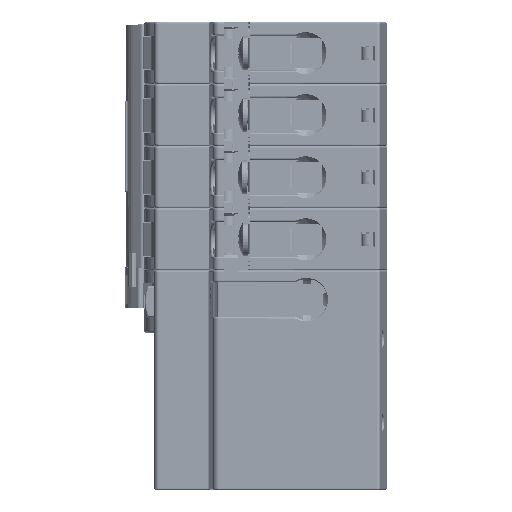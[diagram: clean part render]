
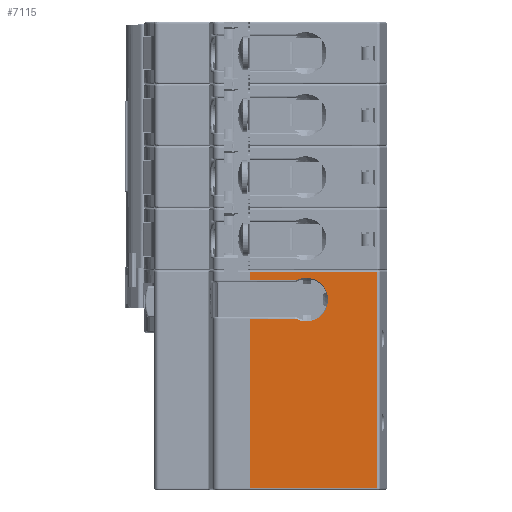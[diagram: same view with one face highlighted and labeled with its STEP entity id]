
A CAD part, left-side view. The second image highlights one B-rep face of the part: STEP entity #7115.
In plain terms, the highlighted planar face has unit normal (-1, 0, 0).
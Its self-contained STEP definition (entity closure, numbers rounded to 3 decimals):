
#687 = CARTESIAN_POINT ( 'NONE',  ( 0., -12.508, -2.9 ) ) ;
#4127 = AXIS2_PLACEMENT_3D ( 'NONE', #91194, #5270, #105582 ) ;
#5112 = ORIENTED_EDGE ( 'NONE', *, *, #91292, .T. ) ;
#5270 = DIRECTION ( 'NONE',  ( 1., 0., 0. ) ) ;
#7115 = ADVANCED_FACE ( 'NONE', ( #105038 ), #134481, .T. ) ;
#12113 = DIRECTION ( 'NONE',  ( 0., 1., 0. ) ) ;
#12212 = VECTOR ( 'NONE', #154970, 1000. ) ;
#15614 = EDGE_CURVE ( 'NONE', #99141, #47074, #25951, .T. ) ;
#16150 = DIRECTION ( 'NONE',  ( 0., 1., 0. ) ) ;
#18937 = DIRECTION ( 'NONE',  ( 0., 0., 1. ) ) ;
#20390 = VERTEX_POINT ( 'NONE', #88134 ) ;
#22614 = EDGE_LOOP ( 'NONE', ( #53001, #100342, #83044, #57758, #30804, #5112, #152376, #151610 ) ) ;
#22688 = EDGE_CURVE ( 'NONE', #103785, #149520, #59831, .T. ) ;
#25744 = CARTESIAN_POINT ( 'NONE',  ( 0., -36.427, -62.5 ) ) ;
#25951 = LINE ( 'NONE', #163901, #174099 ) ;
#27894 = CARTESIAN_POINT ( 'NONE',  ( 0., -36.427, -0.5 ) ) ;
#29090 = DIRECTION ( 'NONE',  ( 0., 0., 1. ) ) ;
#30804 = ORIENTED_EDGE ( 'NONE', *, *, #137571, .F. ) ;
#35754 = CARTESIAN_POINT ( 'NONE',  ( 0., 0., -0.5 ) ) ;
#40363 = CIRCLE ( 'NONE', #4127, 6.245 ) ;
#43711 = CARTESIAN_POINT ( 'NONE',  ( 0., 0., -13.9 ) ) ;
#43841 = VECTOR ( 'NONE', #29090, 1000. ) ;
#44168 = LINE ( 'NONE', #687, #154141 ) ;
#47074 = VERTEX_POINT ( 'NONE', #27894 ) ;
#48288 = LINE ( 'NONE', #129408, #43841 ) ;
#49733 = DIRECTION ( 'NONE',  ( 0., -1., 0. ) ) ;
#53001 = ORIENTED_EDGE ( 'NONE', *, *, #56397, .F. ) ;
#56397 = EDGE_CURVE ( 'NONE', #20390, #125471, #48288, .T. ) ;
#57758 = ORIENTED_EDGE ( 'NONE', *, *, #22688, .T. ) ;
#59831 = LINE ( 'NONE', #43711, #131646 ) ;
#73292 = CARTESIAN_POINT ( 'NONE',  ( 0., -13.292, -13.9 ) ) ;
#76054 = CARTESIAN_POINT ( 'NONE',  ( 0., 0., -63. ) ) ;
#83044 = ORIENTED_EDGE ( 'NONE', *, *, #151704, .T. ) ;
#84576 = EDGE_CURVE ( 'NONE', #47074, #125471, #115715, .T. ) ;
#88134 = CARTESIAN_POINT ( 'NONE',  ( 0., 0., -2.9 ) ) ;
#88565 = LINE ( 'NONE', #25744, #12212 ) ;
#88748 = CARTESIAN_POINT ( 'NONE',  ( 0., -13.292, -2.9 ) ) ;
#89562 = CARTESIAN_POINT ( 'NONE',  ( 0., 0., -13.9 ) ) ;
#91194 = CARTESIAN_POINT ( 'NONE',  ( 0., -16.25, -8.4 ) ) ;
#91292 = EDGE_CURVE ( 'NONE', #175835, #99141, #88565, .T. ) ;
#98032 = CARTESIAN_POINT ( 'NONE',  ( 0., -36.427, -0.5 ) ) ;
#99141 = VERTEX_POINT ( 'NONE', #135236 ) ;
#100342 = ORIENTED_EDGE ( 'NONE', *, *, #142456, .T. ) ;
#100985 = DIRECTION ( 'NONE',  ( 0., -1., 0. ) ) ;
#103785 = VERTEX_POINT ( 'NONE', #73292 ) ;
#105038 = FACE_OUTER_BOUND ( 'NONE', #22614, .T. ) ;
#105582 = DIRECTION ( 'NONE',  ( 0., -1., 0. ) ) ;
#106762 = DIRECTION ( 'NONE',  ( 0., 0., 1. ) ) ;
#108860 = AXIS2_PLACEMENT_3D ( 'NONE', #121283, #135689, #49733 ) ;
#115715 = LINE ( 'NONE', #98032, #120248 ) ;
#120248 = VECTOR ( 'NONE', #12113, 1000. ) ;
#121283 = CARTESIAN_POINT ( 'NONE',  ( 0., -36.427, -63. ) ) ;
#122483 = VECTOR ( 'NONE', #18937, 1000. ) ;
#125471 = VERTEX_POINT ( 'NONE', #35754 ) ;
#129408 = CARTESIAN_POINT ( 'NONE',  ( 0., 0., -63. ) ) ;
#130431 = CARTESIAN_POINT ( 'NONE',  ( 0., 0., -62.5 ) ) ;
#131646 = VECTOR ( 'NONE', #16150, 1000. ) ;
#134481 = PLANE ( 'NONE',  #108860 ) ;
#135236 = CARTESIAN_POINT ( 'NONE',  ( 0., -36.427, -62.5 ) ) ;
#135689 = DIRECTION ( 'NONE',  ( -1., 0., 0. ) ) ;
#137571 = EDGE_CURVE ( 'NONE', #175835, #149520, #160640, .T. ) ;
#142456 = EDGE_CURVE ( 'NONE', #20390, #151562, #44168, .T. ) ;
#149520 = VERTEX_POINT ( 'NONE', #89562 ) ;
#151562 = VERTEX_POINT ( 'NONE', #88748 ) ;
#151610 = ORIENTED_EDGE ( 'NONE', *, *, #84576, .T. ) ;
#151704 = EDGE_CURVE ( 'NONE', #151562, #103785, #40363, .T. ) ;
#152376 = ORIENTED_EDGE ( 'NONE', *, *, #15614, .T. ) ;
#154141 = VECTOR ( 'NONE', #100985, 1000. ) ;
#154970 = DIRECTION ( 'NONE',  ( 0., -1., 0. ) ) ;
#160640 = LINE ( 'NONE', #76054, #122483 ) ;
#163901 = CARTESIAN_POINT ( 'NONE',  ( 0., -36.427, -63. ) ) ;
#174099 = VECTOR ( 'NONE', #106762, 1000. ) ;
#175835 = VERTEX_POINT ( 'NONE', #130431 ) ;
